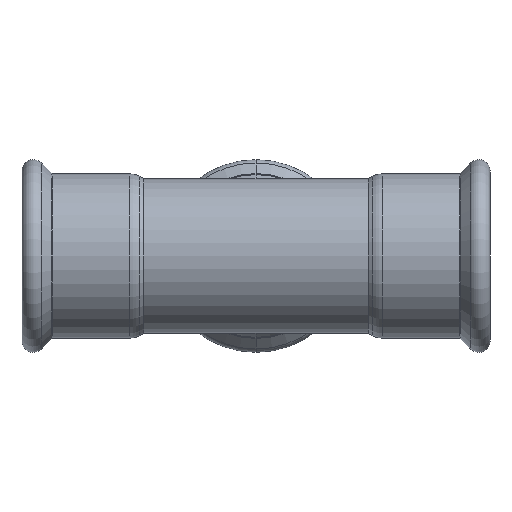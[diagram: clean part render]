
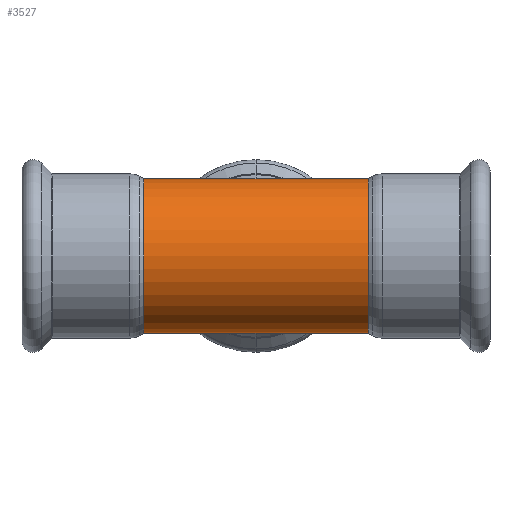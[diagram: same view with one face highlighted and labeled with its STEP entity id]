
A CAD part, front view. The second image highlights one B-rep face of the part: STEP entity #3527.
In plain terms, the highlighted cylindrical face has radius 38.05 mm (diameter 76.1 mm), a partial arc.
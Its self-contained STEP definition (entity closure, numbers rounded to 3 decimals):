
#23 = CARTESIAN_POINT ( 'NONE',  ( 55.056, 0., 38.05 ) ) ;
#80 = EDGE_LOOP ( 'NONE', ( #2193, #3537, #457, #346, #799, #761 ) ) ;
#111 = CARTESIAN_POINT ( 'NONE',  ( 55.056, 0., 0. ) ) ;
#126 = DIRECTION ( 'NONE',  ( -1., 0., 0. ) ) ;
#131 = VERTEX_POINT ( 'NONE', #622 ) ;
#264 = AXIS2_PLACEMENT_3D ( 'NONE', #1161, #1986, #2583 ) ;
#300 = VERTEX_POINT ( 'NONE', #408 ) ;
#346 = ORIENTED_EDGE ( 'NONE', *, *, #3525, .T. ) ;
#364 = DIRECTION ( 'NONE',  ( -1., 0., 0. ) ) ;
#408 = CARTESIAN_POINT ( 'NONE',  ( -55.056, 0., 38.05 ) ) ;
#433 = CYLINDRICAL_SURFACE ( 'NONE', #880, 38.05 ) ;
#457 = ORIENTED_EDGE ( 'NONE', *, *, #2871, .T. ) ;
#537 = VERTEX_POINT ( 'NONE', #1999 ) ;
#542 = VERTEX_POINT ( 'NONE', #23 ) ;
#570 = DIRECTION ( 'NONE',  ( -1., 0., 0. ) ) ;
#602 = VECTOR ( 'NONE', #126, 1000. ) ;
#622 = CARTESIAN_POINT ( 'NONE',  ( 0., 0., 38.05 ) ) ;
#761 = ORIENTED_EDGE ( 'NONE', *, *, #3086, .F. ) ;
#799 = ORIENTED_EDGE ( 'NONE', *, *, #3087, .F. ) ;
#880 = AXIS2_PLACEMENT_3D ( 'NONE', #1328, #1931, #2226 ) ;
#1051 = VECTOR ( 'NONE', #570, 1000. ) ;
#1093 = CIRCLE ( 'NONE', #264, 38.05 ) ;
#1161 = CARTESIAN_POINT ( 'NONE',  ( -55.056, 0., 0. ) ) ;
#1204 = AXIS2_PLACEMENT_3D ( 'NONE', #111, #1784, #3263 ) ;
#1249 = VERTEX_POINT ( 'NONE', #3622 ) ;
#1328 = CARTESIAN_POINT ( 'NONE',  ( 27.146, 0., 0. ) ) ;
#1350 = LINE ( 'NONE', #1528, #602 ) ;
#1432 = LINE ( 'NONE', #2950, #3200 ) ;
#1528 = CARTESIAN_POINT ( 'NONE',  ( 27.146, 0., 38.05 ) ) ;
#1665 = LINE ( 'NONE', #3428, #1051 ) ;
#1748 = CIRCLE ( 'NONE', #1204, 38.05 ) ;
#1784 = DIRECTION ( 'NONE',  ( -1., 0., 0. ) ) ;
#1827 = VERTEX_POINT ( 'NONE', #1898 ) ;
#1898 = CARTESIAN_POINT ( 'NONE',  ( -55.056, 0., -38.05 ) ) ;
#1919 = CARTESIAN_POINT ( 'NONE',  ( 27.146, 0., 38.05 ) ) ;
#1931 = DIRECTION ( 'NONE',  ( -1., 0., 0. ) ) ;
#1933 = FACE_OUTER_BOUND ( 'NONE', #80, .T. ) ;
#1986 = DIRECTION ( 'NONE',  ( -1., 0., 0. ) ) ;
#1999 = CARTESIAN_POINT ( 'NONE',  ( 55.056, 0., -38.05 ) ) ;
#2193 = ORIENTED_EDGE ( 'NONE', *, *, #2880, .F. ) ;
#2226 = DIRECTION ( 'NONE',  ( 0., 0., 1. ) ) ;
#2583 = DIRECTION ( 'NONE',  ( 0., 0., 1. ) ) ;
#2871 = EDGE_CURVE ( 'NONE', #542, #131, #1350, .T. ) ;
#2880 = EDGE_CURVE ( 'NONE', #537, #1249, #1432, .T. ) ;
#2950 = CARTESIAN_POINT ( 'NONE',  ( 27.146, 0., -38.05 ) ) ;
#2956 = EDGE_CURVE ( 'NONE', #537, #542, #1748, .T. ) ;
#3086 = EDGE_CURVE ( 'NONE', #1249, #1827, #1665, .T. ) ;
#3087 = EDGE_CURVE ( 'NONE', #1827, #300, #1093, .T. ) ;
#3200 = VECTOR ( 'NONE', #364, 1000. ) ;
#3263 = DIRECTION ( 'NONE',  ( 0., 0., 1. ) ) ;
#3349 = VECTOR ( 'NONE', #3628, 1000. ) ;
#3428 = CARTESIAN_POINT ( 'NONE',  ( 27.146, 0., -38.05 ) ) ;
#3525 = EDGE_CURVE ( 'NONE', #131, #300, #3643, .T. ) ;
#3527 = ADVANCED_FACE ( 'NONE', ( #1933 ), #433, .T. ) ;
#3537 = ORIENTED_EDGE ( 'NONE', *, *, #2956, .T. ) ;
#3622 = CARTESIAN_POINT ( 'NONE',  ( 0., 0., -38.05 ) ) ;
#3628 = DIRECTION ( 'NONE',  ( -1., 0., 0. ) ) ;
#3643 = LINE ( 'NONE', #1919, #3349 ) ;
